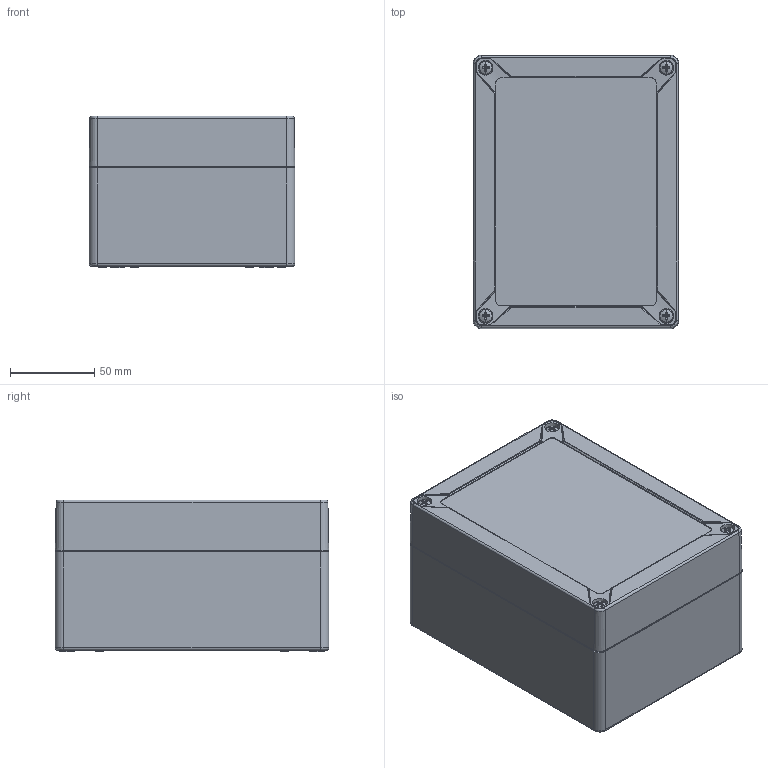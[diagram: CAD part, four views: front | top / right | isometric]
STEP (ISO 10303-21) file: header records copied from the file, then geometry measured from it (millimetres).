
FILE_DESCRIPTION (( 'STEP AP214' ), '1' );
FILE_NAME ('SG-13-03.STEP', '2026-02-27T17:32:13', ( '' ), ( '' ), 'SwSTEP 2.0', 'SolidWorks 2025', '' );
FILE_SCHEMA (( 'AUTOMOTIVE_DESIGN' ));
Length unit declared in the file: inch
Products named in the file (7): SG-13C_SG-13C-03; SG-KIT-02; SCREWS-019_SCREWS-19; SG-13B_SG-13B-02; SG-97S; SG-13-03; SCREWS-022_SCREWS-022
Assembly tree (13 placements, depth 3):
  SG-13-03
    SG-13B_SG-13B-02
    SG-13C_SG-13C-03
    SG-KIT-02
      SCREWS-019_SCREWS-19  x4
      SCREWS-022_SCREWS-022  x4
      SG-97S  x2
Bounding box: 122 x 162 x 90 mm (x, y, z)
Volume: 300930.3 mm3; surface area: 221721.3 mm2
Topology: 9 solids, 13 shells, 2785 faces, 6851 edges, 4072 vertices
Faces by surface type: cylinder 866, plane 798, bspline 591, torus 276, cone 160, sphere 94
Entity records: 67870 total; most frequent: CARTESIAN_POINT 29190, ORIENTED_EDGE 8404, DIRECTION 7650, EDGE_CURVE 4202, AXIS2_PLACEMENT_3D 2845, VERTEX_POINT 2610, VECTOR 1960, LINE 1960
